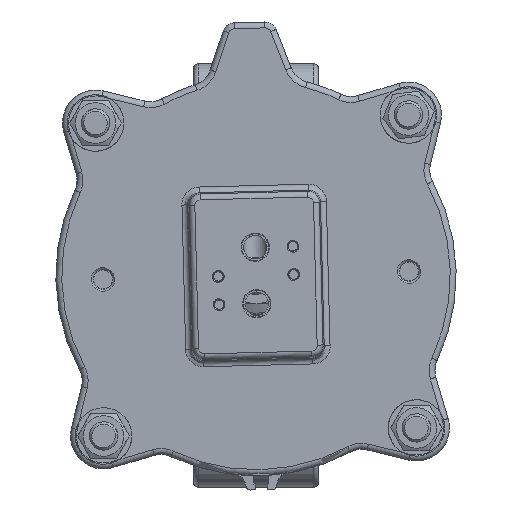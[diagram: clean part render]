
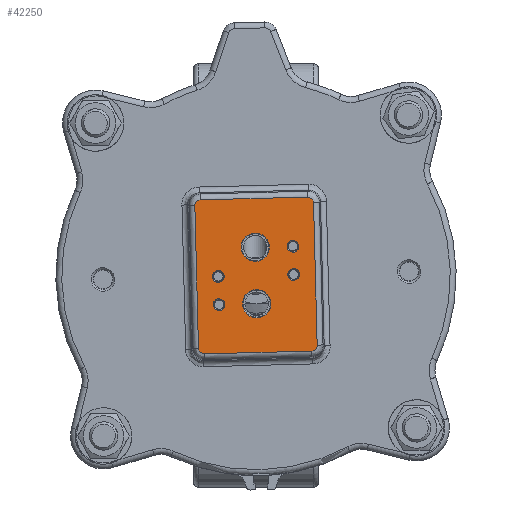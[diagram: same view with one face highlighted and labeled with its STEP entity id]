
A CAD part, front view. The second image highlights one B-rep face of the part: STEP entity #42250.
In plain terms, the highlighted planar face has unit normal (0, -1, 0).
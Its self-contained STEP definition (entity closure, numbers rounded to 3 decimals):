
#887=FACE_BOUND('',#6965,.T.);
#888=FACE_BOUND('',#6966,.T.);
#889=FACE_BOUND('',#6967,.T.);
#890=FACE_BOUND('',#6968,.T.);
#891=FACE_BOUND('',#6969,.T.);
#892=FACE_BOUND('',#6970,.T.);
#1775=PLANE('',#46100);
#2466=ELLIPSE('',#46101,2.519,2.5);
#2467=ELLIPSE('',#46102,2.519,2.5);
#2468=ELLIPSE('',#46103,2.519,2.5);
#2469=ELLIPSE('',#46104,2.519,2.5);
#4224=FACE_OUTER_BOUND('',#6964,.T.);
#6964=EDGE_LOOP('',(#32650,#32651,#32652,#32653,#32654,#32655,#32656,#32657));
#6965=EDGE_LOOP('',(#32658));
#6966=EDGE_LOOP('',(#32659));
#6967=EDGE_LOOP('',(#32660));
#6968=EDGE_LOOP('',(#32661));
#6969=EDGE_LOOP('',(#32662));
#6970=EDGE_LOOP('',(#32663));
#10421=LINE('',#73381,#12603);
#10422=LINE('',#73385,#12604);
#10423=LINE('',#73389,#12605);
#10424=LINE('',#73392,#12606);
#12603=VECTOR('',#54665,10.);
#12604=VECTOR('',#54668,10.);
#12605=VECTOR('',#54671,10.);
#12606=VECTOR('',#54674,10.);
#15053=CIRCLE('',#46099,2.5);
#15054=CIRCLE('',#46105,2.5);
#15055=CIRCLE('',#46106,2.5);
#15056=CIRCLE('',#46107,6.);
#15057=CIRCLE('',#46108,6.);
#15058=CIRCLE('',#46109,2.5);
#18764=VERTEX_POINT('',#73373);
#18765=VERTEX_POINT('',#73377);
#18766=VERTEX_POINT('',#73378);
#18767=VERTEX_POINT('',#73380);
#18768=VERTEX_POINT('',#73382);
#18769=VERTEX_POINT('',#73384);
#18770=VERTEX_POINT('',#73386);
#18771=VERTEX_POINT('',#73388);
#18772=VERTEX_POINT('',#73390);
#18773=VERTEX_POINT('',#73393);
#18774=VERTEX_POINT('',#73395);
#18775=VERTEX_POINT('',#73397);
#18776=VERTEX_POINT('',#73399);
#18777=VERTEX_POINT('',#73401);
#23782=EDGE_CURVE('',#18764,#18764,#15053,.T.);
#23783=EDGE_CURVE('',#18765,#18766,#2466,.T.);
#23784=EDGE_CURVE('',#18767,#18765,#10421,.T.);
#23785=EDGE_CURVE('',#18768,#18767,#2467,.T.);
#23786=EDGE_CURVE('',#18769,#18768,#10422,.T.);
#23787=EDGE_CURVE('',#18770,#18769,#2468,.T.);
#23788=EDGE_CURVE('',#18771,#18770,#10423,.T.);
#23789=EDGE_CURVE('',#18772,#18771,#2469,.T.);
#23790=EDGE_CURVE('',#18766,#18772,#10424,.T.);
#23791=EDGE_CURVE('',#18773,#18773,#15054,.T.);
#23792=EDGE_CURVE('',#18774,#18774,#15055,.T.);
#23793=EDGE_CURVE('',#18775,#18775,#15056,.T.);
#23794=EDGE_CURVE('',#18776,#18776,#15057,.T.);
#23795=EDGE_CURVE('',#18777,#18777,#15058,.T.);
#32650=ORIENTED_EDGE('',*,*,#23783,.F.);
#32651=ORIENTED_EDGE('',*,*,#23784,.F.);
#32652=ORIENTED_EDGE('',*,*,#23785,.F.);
#32653=ORIENTED_EDGE('',*,*,#23786,.F.);
#32654=ORIENTED_EDGE('',*,*,#23787,.F.);
#32655=ORIENTED_EDGE('',*,*,#23788,.F.);
#32656=ORIENTED_EDGE('',*,*,#23789,.F.);
#32657=ORIENTED_EDGE('',*,*,#23790,.F.);
#32658=ORIENTED_EDGE('',*,*,#23791,.F.);
#32659=ORIENTED_EDGE('',*,*,#23792,.F.);
#32660=ORIENTED_EDGE('',*,*,#23793,.F.);
#32661=ORIENTED_EDGE('',*,*,#23794,.F.);
#32662=ORIENTED_EDGE('',*,*,#23795,.F.);
#32663=ORIENTED_EDGE('',*,*,#23782,.F.);
#42250=ADVANCED_FACE('',(#4224,#887,#888,#889,#890,#891,#892),#1775,.F.);
#46099=AXIS2_PLACEMENT_3D('',#73375,#54659,#54660);
#46100=AXIS2_PLACEMENT_3D('',#73376,#54661,#54662);
#46101=AXIS2_PLACEMENT_3D('',#73379,#54663,#54664);
#46102=AXIS2_PLACEMENT_3D('',#73383,#54666,#54667);
#46103=AXIS2_PLACEMENT_3D('',#73387,#54669,#54670);
#46104=AXIS2_PLACEMENT_3D('',#73391,#54672,#54673);
#46105=AXIS2_PLACEMENT_3D('',#73394,#54675,#54676);
#46106=AXIS2_PLACEMENT_3D('',#73396,#54677,#54678);
#46107=AXIS2_PLACEMENT_3D('',#73398,#54679,#54680);
#46108=AXIS2_PLACEMENT_3D('',#73400,#54681,#54682);
#46109=AXIS2_PLACEMENT_3D('',#73402,#54683,#54684);
#54659=DIRECTION('center_axis',(0.,-1.,0.));
#54660=DIRECTION('ref_axis',(0.026,0.,-1.));
#54661=DIRECTION('center_axis',(0.,1.,0.));
#54662=DIRECTION('ref_axis',(0.026,0.,-1.));
#54663=DIRECTION('center_axis',(0.,1.,0.));
#54664=DIRECTION('ref_axis',(0.689,0.,0.725));
#54665=DIRECTION('',(1.,0.,0.026));
#54666=DIRECTION('center_axis',(0.,1.,0.));
#54667=DIRECTION('ref_axis',(-0.725,0.,0.689));
#54668=DIRECTION('',(-0.026,0.,1.));
#54669=DIRECTION('center_axis',(0.,1.,0.));
#54670=DIRECTION('ref_axis',(-0.689,0.,-0.725));
#54671=DIRECTION('',(-1.,0.,-0.026));
#54672=DIRECTION('center_axis',(0.,1.,0.));
#54673=DIRECTION('ref_axis',(0.725,0.,-0.689));
#54674=DIRECTION('',(0.026,0.,-1.));
#54675=DIRECTION('center_axis',(0.,-1.,0.));
#54676=DIRECTION('ref_axis',(0.026,0.,-1.));
#54677=DIRECTION('center_axis',(0.,-1.,0.));
#54678=DIRECTION('ref_axis',(0.026,0.,-1.));
#54679=DIRECTION('center_axis',(0.,-1.,0.));
#54680=DIRECTION('ref_axis',(0.026,0.,-1.));
#54681=DIRECTION('center_axis',(0.,-1.,0.));
#54682=DIRECTION('ref_axis',(0.026,0.,-1.));
#54683=DIRECTION('center_axis',(0.,-1.,0.));
#54684=DIRECTION('ref_axis',(0.026,0.,-1.));
#73373=CARTESIAN_POINT('',(-15.752,-810.,-9.906));
#73375=CARTESIAN_POINT('Origin',(-15.688,-810.,-12.406));
#73376=CARTESIAN_POINT('Origin',(0.,-810.,
0.));
#73377=CARTESIAN_POINT('',(21.874,-810.,33.28));
#73378=CARTESIAN_POINT('',(24.427,-810.,30.854));
#73379=CARTESIAN_POINT('Origin',(21.919,-810.,30.771));
#73380=CARTESIAN_POINT('',(-23.548,-810.,32.117));
#73381=CARTESIAN_POINT('',(12.908,-810.,33.05));
#73382=CARTESIAN_POINT('',(-25.974,-810.,29.564));
#73383=CARTESIAN_POINT('Origin',(-23.465,-810.,29.609));
#73384=CARTESIAN_POINT('',(-24.427,-810.,-30.854));
#73385=CARTESIAN_POINT('',(-25.649,-810.,16.849));
#73386=CARTESIAN_POINT('',(-21.874,-810.,-33.28));
#73387=CARTESIAN_POINT('Origin',(-21.919,-810.,-30.771));
#73388=CARTESIAN_POINT('',(23.548,-810.,-32.117));
#73389=CARTESIAN_POINT('',(-12.908,-810.,-33.05));
#73390=CARTESIAN_POINT('',(25.974,-810.,-29.564));
#73391=CARTESIAN_POINT('Origin',(23.465,-810.,-29.609));
#73392=CARTESIAN_POINT('',(25.649,-810.,-16.849));
#73393=CARTESIAN_POINT('',(-16.059,-810.,2.09));
#73394=CARTESIAN_POINT('Origin',(-15.995,-810.,-0.41));
#73395=CARTESIAN_POINT('',(15.624,-810.,14.905));
#73396=CARTESIAN_POINT('Origin',(15.688,-810.,12.406));
#73397=CARTESIAN_POINT('',(-0.461,-810.,17.994));
#73398=CARTESIAN_POINT('Origin',(-0.307,-810.,11.996));
#73399=CARTESIAN_POINT('',(0.154,-810.,-5.998));
#73400=CARTESIAN_POINT('Origin',(0.307,-810.,-11.996));
#73401=CARTESIAN_POINT('',(15.931,-810.,2.909));
#73402=CARTESIAN_POINT('Origin',(15.995,-810.,0.41));
